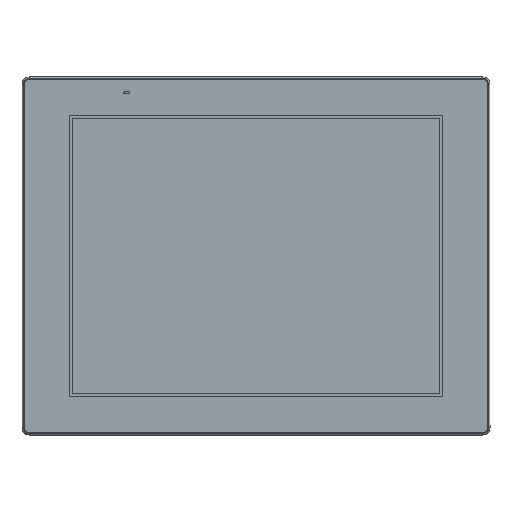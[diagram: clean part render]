
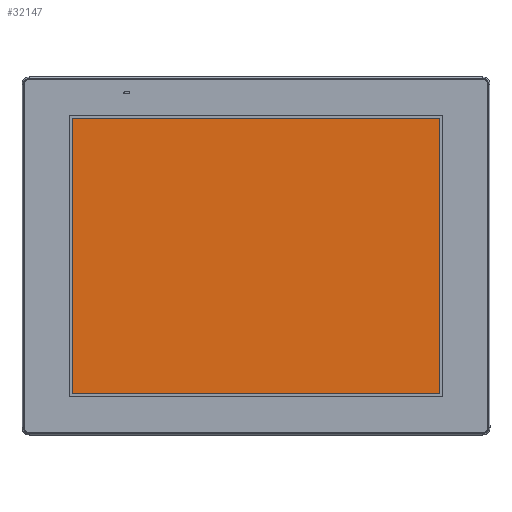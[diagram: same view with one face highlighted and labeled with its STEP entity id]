
A CAD part, top view. The second image highlights one B-rep face of the part: STEP entity #32147.
In plain terms, the highlighted planar face has unit normal (0, 0, 1).
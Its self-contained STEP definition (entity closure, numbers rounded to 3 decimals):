
#2218 = VERTEX_POINT ( 'NONE', #19035 ) ;
#2640 = VECTOR ( 'NONE', #68133, 1000. ) ;
#2766 = CARTESIAN_POINT ( 'NONE',  ( 157.5, 120.5, 58.268 ) ) ;
#3080 = DIRECTION ( 'NONE',  ( 0., 0., 1. ) ) ;
#6859 = VERTEX_POINT ( 'NONE', #76648 ) ;
#11891 = AXIS2_PLACEMENT_3D ( 'NONE', #2766, #3080, #59543 ) ;
#12927 = CARTESIAN_POINT ( 'NONE',  ( 157.5, 213.3, 58.268 ) ) ;
#13152 = VECTOR ( 'NONE', #20096, 1000. ) ;
#13958 = VECTOR ( 'NONE', #15452, 1000. ) ;
#13967 = EDGE_CURVE ( 'NONE', #88006, #6859, #66617, .T. ) ;
#15286 = EDGE_LOOP ( 'NONE', ( #83635, #39633, #28820, #16659 ) ) ;
#15452 = DIRECTION ( 'NONE',  ( 0., -1., 0. ) ) ;
#16659 = ORIENTED_EDGE ( 'NONE', *, *, #79648, .T. ) ;
#18428 = EDGE_CURVE ( 'NONE', #58036, #88006, #64965, .T. ) ;
#19035 = CARTESIAN_POINT ( 'NONE',  ( 281.05, 27.7, 58.268 ) ) ;
#20096 = DIRECTION ( 'NONE',  ( 0., 1., 0. ) ) ;
#21012 = VECTOR ( 'NONE', #76132, 1000. ) ;
#24195 = LINE ( 'NONE', #46231, #13152 ) ;
#24274 = PLANE ( 'NONE',  #11891 ) ;
#28820 = ORIENTED_EDGE ( 'NONE', *, *, #63936, .T. ) ;
#32147 = ADVANCED_FACE ( 'NONE', ( #73734 ), #24274, .T. ) ;
#33792 = CARTESIAN_POINT ( 'NONE',  ( 281.05, 213.3, 58.268 ) ) ;
#39158 = CARTESIAN_POINT ( 'NONE',  ( 33.95, 213.3, 58.268 ) ) ;
#39633 = ORIENTED_EDGE ( 'NONE', *, *, #13967, .T. ) ;
#46231 = CARTESIAN_POINT ( 'NONE',  ( 281.05, 120.5, 58.268 ) ) ;
#54063 = CARTESIAN_POINT ( 'NONE',  ( 157.5, 27.7, 58.268 ) ) ;
#57508 = CARTESIAN_POINT ( 'NONE',  ( 33.95, 120.5, 58.268 ) ) ;
#58036 = VERTEX_POINT ( 'NONE', #33792 ) ;
#59543 = DIRECTION ( 'NONE',  ( 1., 0., 0. ) ) ;
#63936 = EDGE_CURVE ( 'NONE', #6859, #2218, #71903, .T. ) ;
#64965 = LINE ( 'NONE', #12927, #21012 ) ;
#66617 = LINE ( 'NONE', #57508, #13958 ) ;
#68133 = DIRECTION ( 'NONE',  ( 1., 0., 0. ) ) ;
#71903 = LINE ( 'NONE', #54063, #2640 ) ;
#73734 = FACE_OUTER_BOUND ( 'NONE', #15286, .T. ) ;
#76132 = DIRECTION ( 'NONE',  ( -1., 0., 0. ) ) ;
#76648 = CARTESIAN_POINT ( 'NONE',  ( 33.95, 27.7, 58.268 ) ) ;
#79648 = EDGE_CURVE ( 'NONE', #2218, #58036, #24195, .T. ) ;
#83635 = ORIENTED_EDGE ( 'NONE', *, *, #18428, .T. ) ;
#88006 = VERTEX_POINT ( 'NONE', #39158 ) ;
